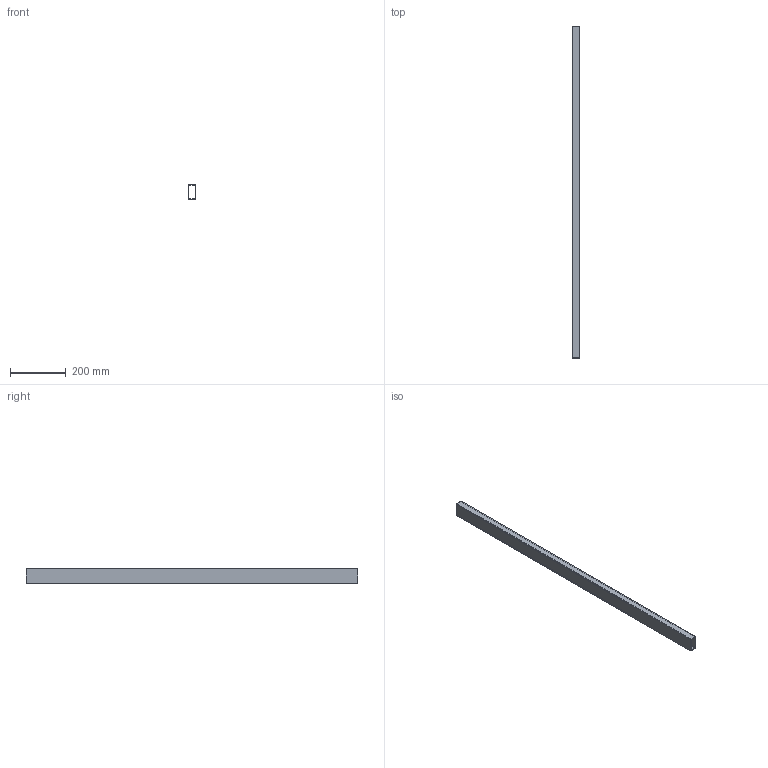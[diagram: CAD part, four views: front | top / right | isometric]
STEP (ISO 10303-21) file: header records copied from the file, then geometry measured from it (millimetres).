
FILE_DESCRIPTION(/* description */ (''),/* implementation_level */ '2;1');
FILE_NAME(/* name */ 'SR-TUBE-2X1-0.0625-PLAIN v1.step',/* time_stamp */ '2025-04-30T16:07:20-05:00',/* author */ (''),/* organization */ (''),/* preprocessor_version */ 'ST-DEVELOPER v20.1',/* originating_system */ 'Autodesk Translation Framework v14.4.0.0',/* authorisation */ '');
FILE_SCHEMA (('AUTOMOTIVE_DESIGN { 1 0 10303 214 3 1 1 }'));
Length unit declared in the file: inch
Products named in the file (1): FusionComponent
Bounding box: 25.4 x 1193.8 x 50.8 mm (x, y, z)
Volume: 283072.7 mm3; surface area: 344107.5 mm2
Topology: 1 solids, 1 shells, 14 faces, 36 edges, 24 vertices
Faces by surface type: plane 10, cylinder 4
Entity records: 467 total; most frequent: CARTESIAN_POINT 75, DIRECTION 74, ORIENTED_EDGE 72, EDGE_CURVE 36, LINE 28, VECTOR 28, VERTEX_POINT 24, AXIS2_PLACEMENT_3D 23
